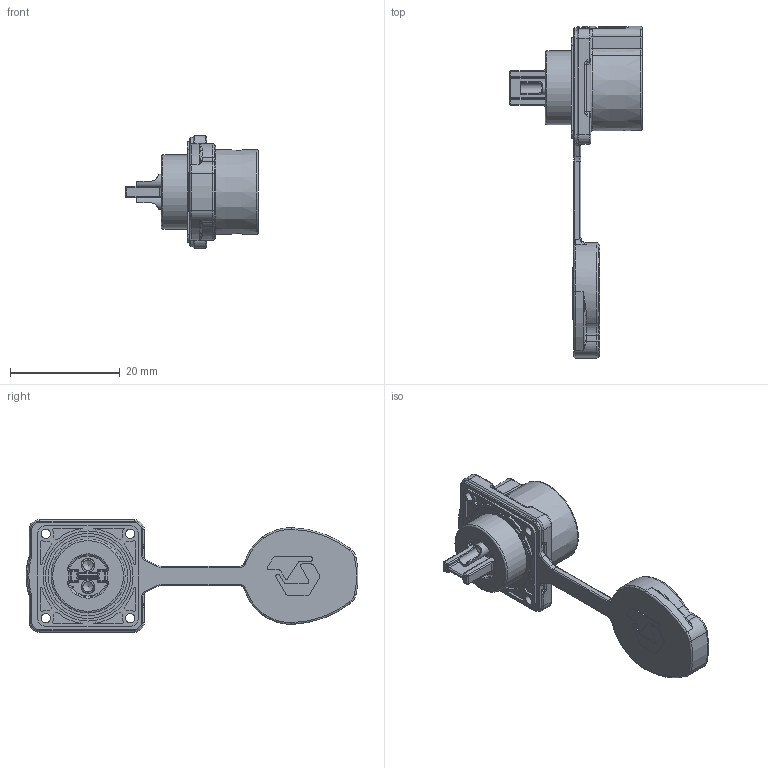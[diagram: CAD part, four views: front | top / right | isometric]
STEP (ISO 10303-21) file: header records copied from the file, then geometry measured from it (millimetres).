
FILE_DESCRIPTION (( 'STEP AP203' ), '1' );
FILE_NAME ('PLG14 2郋侐謂脣釱淏蚾.STEP', '2025-04-30T06:01:15', ( '' ), ( '' ), 'SwSTEP 2.0', 'SolidWorks 2024', '' );
FILE_SCHEMA (( 'CONFIG_CONTROL_DESIGN' ));
Length unit declared in the file: millimetre
Products named in the file (1): PLG14 2芯四孔插座正装
Bounding box: 24.2 x 60.57 x 20.5 mm (x, y, z)
Volume: 3908.2 mm3; surface area: 4766.1 mm2
Topology: 1 solids, 13 shells, 1227 faces, 3004 edges, 1818 vertices
Faces by surface type: cylinder 451, plane 363, torus 185, bspline 175, cone 37, sphere 16
Full cylindrical faces by diameter (mm): 1.7 x6, 1.9 x2, 2.3 x4, 2.5 x2, 2.65 x2, 4 x4, 10.7 x1, 13.3 x3, 13.5 x2, 14.5 x1, 15.5 x1, 16.42 x1
Entity records: 40764 total; most frequent: CARTESIAN_POINT 13318, ORIENTED_EDGE 5794, DIRECTION 5626, EDGE_CURVE 2897, AXIS2_PLACEMENT_3D 2222, VERTEX_POINT 1793, EDGE_LOOP 1340, FACE_OUTER_BOUND 1273
